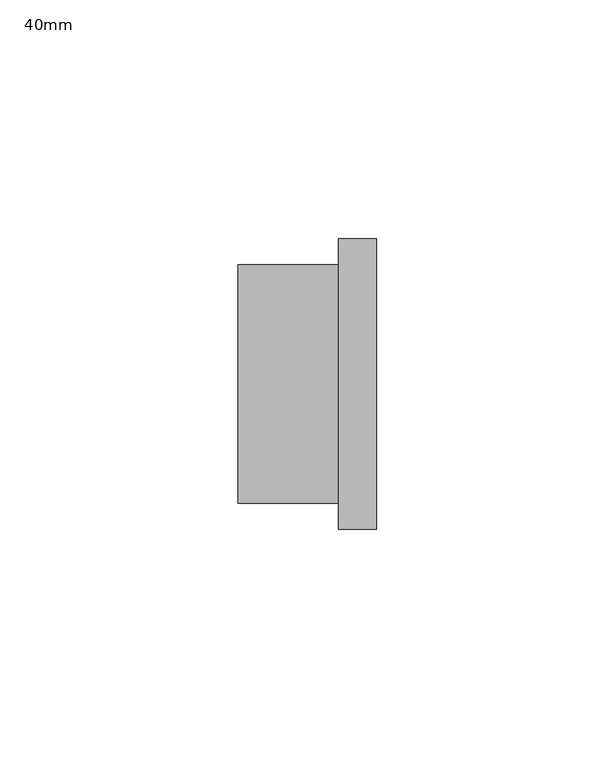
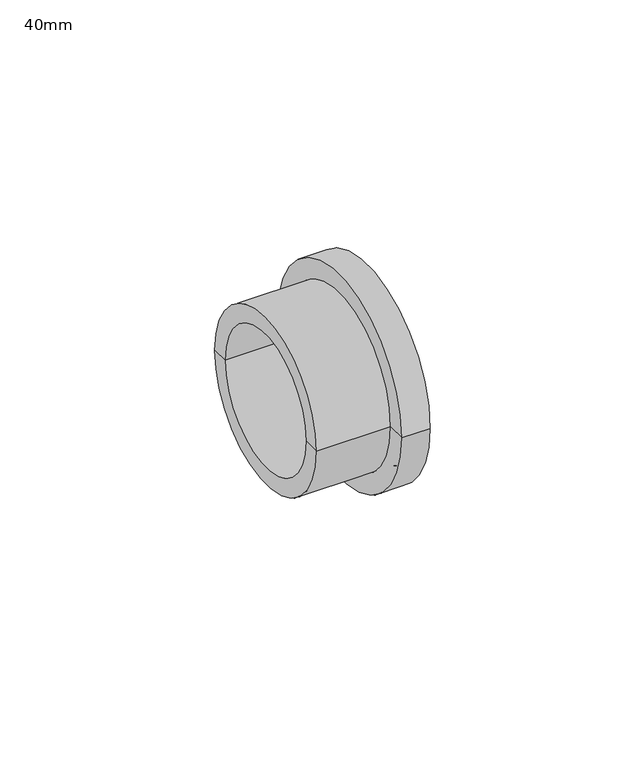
"""IFC4 building model written with IfcOpenShell, lengths in millimetres: pipe fitting geometry, Durapipe_PipeFitting_PVC_StubFlange : 40mm."""

from ifc_helpers import new_model, si_unit, frame, origin, place, context, project, spatial, polyline, circle_curve, source, transform, mapped, element, save
from ifc_brep_helpers import plane_surface, cylinder_surface, revolved_surface, advanced_brep


def pipe_fitting_40mm_33106ba2(model_context):
    return source(origin(), model_context, "Body", "AdvancedBrep", [
        advanced_brep(
        [(14.5, -30.5, 0.0), (14.5, 30.5, 0.0), (14.5, 27.8, 0.0), (14.5, -27.8, 0.0), (14.5, 16.0, 0.0), (14.5, -16.0, 0.0), (14.5, -24.0720779, 0.0), (14.5, 24.0720779, 0.0), (6.5, -30.5, 0.0), (6.5, 30.5, 0.0), (6.5, -25.0, 0.0), (6.5, 25.0, 0.0), (-14.5, -25.0, 0.0), (-14.5, 25.0, 0.0), (-14.5, -20.0, 0.0), (-14.5, 20.0, 0.0), (11.5, 16.0, 0.0), (11.5, -16.0, 0.0), (11.5, -20.0, 0.0), (11.5, 20.0, 0.0), (14.5, 25.3147186, 0.0), (13.0, 24.6933983, 0.0), (13.0, -24.6933983, 0.0), (14.5, -25.3147186, 0.0), (13.0, -25.936039, 0.0), (13.0, 25.936039, 0.0), (14.5, -26.5573593, 0.0), (14.5, 26.5573593, 0.0), (13.0, -27.1786797, 0.0), (13.0, 27.1786797, 0.0)],
        [
            (0, 1, circle_curve(frame((14.5, 0.0, 0.0), z_axis=(1.0, 0.0, 0.0), x_axis=(0.0, 1.0, 0.0)), 30.5)),
            (1, 2),
            (2, 3, circle_curve(frame((14.5, 0.0, 0.0), z_axis=(-1.0, 0.0, 0.0), x_axis=(0.0, -1.0, 0.0)), 27.8)),
            (3, 0),
            (4, 5, circle_curve(frame((14.5, 0.0, 0.0), z_axis=(-1.0, 0.0, 0.0), x_axis=(0.0, 1.0, 0.0)), 16.0)),
            (5, 6),
            (6, 7, circle_curve(frame((14.5, 0.0, 0.0), z_axis=(1.0, 0.0, 0.0), x_axis=(0.0, -1.0, 0.0)), 24.0720779)),
            (7, 4),
            (1, 0, circle_curve(frame((14.5, 0.0, 0.0), z_axis=(1.0, 0.0, 0.0), x_axis=(0.0, 1.0, 0.0)), 30.5)),
            (3, 2, circle_curve(frame((14.5, 0.0, 0.0), z_axis=(-1.0, 0.0, 0.0), x_axis=(0.0, 1.0, 0.0)), 27.8)),
            (5, 4, circle_curve(frame((14.5, 0.0, 0.0), z_axis=(-1.0, 0.0, 0.0), x_axis=(0.0, 1.0, 0.0)), 16.0)),
            (7, 6, circle_curve(frame((14.5, 0.0, 0.0), z_axis=(1.0, 0.0, 0.0), x_axis=(0.0, 1.0, 0.0)), 24.0720779)),
            (0, 8),
            (8, 9, circle_curve(frame((6.5, 0.0, 0.0), z_axis=(1.0, 0.0, 0.0), x_axis=(0.0, 1.0, 0.0)), 30.5)),
            (9, 1),
            (9, 8, circle_curve(frame((6.5, 0.0, 0.0), z_axis=(1.0, 0.0, 0.0), x_axis=(0.0, 1.0, 0.0)), 30.5)),
            (8, 10),
            (10, 11, circle_curve(frame((6.5, 0.0, 0.0), z_axis=(1.0, 0.0, 0.0), x_axis=(0.0, 1.0, 0.0)), 25.0)),
            (11, 9),
            (11, 10, circle_curve(frame((6.5, 0.0, 0.0), z_axis=(1.0, 0.0, 0.0), x_axis=(0.0, 1.0, 0.0)), 25.0)),
            (10, 12),
            (12, 13, circle_curve(frame((-14.5, 0.0, 0.0), z_axis=(1.0, 0.0, 0.0), x_axis=(0.0, 1.0, 0.0)), 25.0)),
            (13, 11),
            (13, 12, circle_curve(frame((-14.5, 0.0, 0.0), z_axis=(1.0, 0.0, 0.0), x_axis=(0.0, 1.0, 0.0)), 25.0)),
            (12, 14),
            (14, 15, circle_curve(frame((-14.5, 0.0, 0.0), z_axis=(1.0, 0.0, 0.0), x_axis=(0.0, 1.0, 0.0)), 20.0)),
            (15, 13),
            (15, 14, circle_curve(frame((-14.5, 0.0, 0.0), z_axis=(1.0, 0.0, 0.0), x_axis=(0.0, 1.0, 0.0)), 20.0)),
            (4, 16),
            (16, 17, circle_curve(frame((11.5, 0.0, 0.0), z_axis=(-1.0, 0.0, 0.0), x_axis=(0.0, 1.0, 0.0)), 16.0)),
            (17, 5),
            (17, 16, circle_curve(frame((11.5, 0.0, 0.0), z_axis=(-1.0, 0.0, 0.0), x_axis=(0.0, 1.0, 0.0)), 16.0)),
            (14, 18),
            (18, 19, circle_curve(frame((11.5, 0.0, 0.0), z_axis=(1.0, 0.0, 0.0), x_axis=(0.0, 1.0, 0.0)), 20.0)),
            (19, 15),
            (19, 18, circle_curve(frame((11.5, 0.0, 0.0), z_axis=(1.0, 0.0, 0.0), x_axis=(0.0, 1.0, 0.0)), 20.0)),
            (18, 17),
            (16, 19),
            (20, 21),
            (21, 22, circle_curve(frame((13.0, 0.0, 0.0), z_axis=(-1.0, 0.0, 0.0), x_axis=(0.0, -1.0, 0.0)), 24.6933983)),
            (22, 23),
            (23, 20, circle_curve(frame((14.5, 0.0, 0.0), z_axis=(1.0, 0.0, 0.0), x_axis=(0.0, -1.0, 0.0)), 25.3147186)),
            (23, 24),
            (24, 25, circle_curve(frame((13.0, 0.0, 0.0), z_axis=(1.0, 0.0, 0.0), x_axis=(0.0, -1.0, 0.0)), 25.936039)),
            (25, 20),
            (24, 26),
            (26, 27, circle_curve(frame((14.5, 0.0, 0.0), z_axis=(1.0, 0.0, 0.0), x_axis=(0.0, -1.0, 0.0)), 26.5573593)),
            (27, 25),
            (26, 28),
            (28, 29, circle_curve(frame((13.0, 0.0, 0.0), z_axis=(1.0, 0.0, 0.0), x_axis=(0.0, -1.0, 0.0)), 27.1786797)),
            (29, 27),
            (28, 3),
            (2, 29),
            (21, 7),
            (6, 22),
            (20, 23, circle_curve(frame((14.5, 0.0, 0.0), z_axis=(1.0, 0.0, 0.0), x_axis=(0.0, 1.0, 0.0)), 25.3147186)),
            (22, 21, circle_curve(frame((13.0, 0.0, 0.0), z_axis=(-1.0, 0.0, 0.0), x_axis=(0.0, 1.0, 0.0)), 24.6933983)),
            (25, 24, circle_curve(frame((13.0, 0.0, 0.0), z_axis=(1.0, 0.0, 0.0), x_axis=(0.0, 1.0, 0.0)), 25.936039)),
            (27, 26, circle_curve(frame((14.5, 0.0, 0.0), z_axis=(1.0, 0.0, 0.0), x_axis=(0.0, 1.0, 0.0)), 26.5573593)),
            (29, 28, circle_curve(frame((13.0, 0.0, 0.0), z_axis=(1.0, 0.0, 0.0), x_axis=(0.0, 1.0, 0.0)), 27.1786797)),
        ],
        [
            plane_surface(frame((14.5, 0.0, 0.0), z_axis=(1.0, 0.0, 0.0), x_axis=(0.0, 1.0, 0.0))),
            cylinder_surface(frame((17.6035546, 0.0, 0.0), z_axis=(-1.0, 0.0, 0.0), x_axis=(0.0, 1.0, 0.0)), 30.5),
            plane_surface(frame((6.5, 0.0, 0.0), z_axis=(-1.0, 0.0, 0.0), x_axis=(0.0, 1.0, 0.0))),
            cylinder_surface(frame((17.6035546, 0.0, 0.0), z_axis=(-1.0, 0.0, 0.0), x_axis=(0.0, 1.0, 0.0)), 25.0),
            plane_surface(frame((-14.5, 0.0, 0.0), z_axis=(-1.0, 0.0, 0.0), x_axis=(0.0, 1.0, 0.0))),
            revolved_surface(polyline([(11.5, 16.0, 0.0), (14.5, 16.0, 0.0)]), (17.6035546, 0.0, 0.0), (-1.0, 0.0, 0.0)),
            revolved_surface(polyline([(-14.5, 20.0, 0.0), (11.5, 20.0, 0.0)]), (-16.3250714, 0.0, 0.0), (-1.0, 0.0, 0.0)),
            plane_surface(frame((11.5, 0.0, 0.0), z_axis=(-1.0, 0.0, 0.0), x_axis=(0.0, 1.0, 0.0))),
            revolved_surface(polyline([(14.5, -25.3147186, 0.0), (13.0, -24.6933983, 0.0)]), (14.5, 0.0, 0.0), (1.0, 0.0, 0.0)),
            revolved_surface(polyline([(13.0, -25.936039, 0.0), (14.5, -25.3147186, 0.0)]), (14.5, 0.0, 0.0), (1.0, 0.0, 0.0)),
            revolved_surface(polyline([(14.5, -26.5573593, 0.0), (13.0, -25.936039, 0.0)]), (14.5, 0.0, 0.0), (1.0, 0.0, 0.0)),
            revolved_surface(polyline([(13.0, -27.1786797, 0.0), (14.5, -26.5573593, 0.0)]), (14.5, 0.0, 0.0), (1.0, 0.0, 0.0)),
            revolved_surface(polyline([(14.5, -27.8, 0.0), (13.0, -27.1786797, 0.0)]), (14.5, 0.0, 0.0), (1.0, 0.0, 0.0)),
            revolved_surface(polyline([(13.0, -24.6933983, 0.0), (14.5, -24.0720779, 0.0)]), (14.5, 0.0, 0.0), (1.0, 0.0, 0.0)),
            revolved_surface(polyline([(14.5, 25.3147186, 0.0), (13.0, 24.6933983, 0.0)]), (14.5, 0.0, 0.0), (1.0, 0.0, 0.0)),
            revolved_surface(polyline([(13.0, 25.936039, 0.0), (14.5, 25.3147186, 0.0)]), (14.5, 0.0, 0.0), (1.0, 0.0, 0.0)),
            revolved_surface(polyline([(14.5, 26.5573593, 0.0), (13.0, 25.936039, 0.0)]), (14.5, 0.0, 0.0), (1.0, 0.0, 0.0)),
            revolved_surface(polyline([(13.0, 27.1786797, 0.0), (14.5, 26.5573593, 0.0)]), (14.5, 0.0, 0.0), (1.0, 0.0, 0.0)),
            revolved_surface(polyline([(14.5, 27.8, 0.0), (13.0, 27.1786797, 0.0)]), (14.5, 0.0, 0.0), (1.0, 0.0, 0.0)),
            revolved_surface(polyline([(13.0, 24.6933983, 0.0), (14.5, 24.0720779, 0.0)]), (14.5, 0.0, 0.0), (1.0, 0.0, 0.0)),
        ],
        [
            (0, [[1, 2, 3, 4]]),
            (0, [[5, 6, 7, 8]]),
            (0, [[9, -4, 10, -2]]),
            (0, [[11, -8, 12, -6]]),
            (1, [[-1, 13, 14, 15]]),
            (1, [[-9, -15, 16, -13]]),
            (2, [[-14, 17, 18, 19]]),
            (2, [[-16, -19, 20, -17]]),
            (3, [[-18, 21, 22, 23]]),
            (3, [[-20, -23, 24, -21]]),
            (4, [[-22, 25, 26, 27]]),
            (4, [[-24, -27, 28, -25]]),
            (5, [[-5, 29, 30, 31]]),
            (5, [[-11, -31, 32, -29]]),
            (6, [[33, 34, 35, -26]]),
            (6, [[-33, -28, -35, 36]]),
            (7, [[-34, 37, -30, 38]]),
            (7, [[-36, -38, -32, -37]]),
            (8, [[39, 40, 41, 42]]),
            (9, [[-42, 43, 44, 45]]),
            (10, [[-44, 46, 47, 48]]),
            (11, [[-47, 49, 50, 51]]),
            (12, [[-50, 52, -3, 53]]),
            (13, [[-40, 54, -7, 55]]),
            (14, [[-39, 56, -41, 57]]),
            (15, [[-45, 58, -43, -56]]),
            (16, [[-48, 59, -46, -58]]),
            (17, [[-51, 60, -49, -59]]),
            (18, [[-53, -10, -52, -60]]),
            (19, [[-54, -57, -55, -12]]),
        ],
    ),
    ])


if __name__ == "__main__":
    model = new_model("IFC4")
    model_context = context("Model", 3, world=origin())
    ifc_project = project(units=[si_unit("LENGTHUNIT", "METRE", prefix="MILLI")], contexts=[model_context])
    site = spatial("IfcSite", under=ifc_project)
    building = spatial("IfcBuilding", under=site)
    placement = place(None, origin())
    pipe_fitting_40mm_shape = pipe_fitting_40mm_33106ba2(model_context)
    element("IfcPipeFitting", 1, ObjectType="Durapipe_PipeFitting_PVC_StubFlange : 40mm", at=placement, inside=building, context=model_context, shape_type="MappedRepresentation", body=[
        mapped(pipe_fitting_40mm_shape, transform((0.0, 0.0, 0.0), x_axis=(1.0, 0.0, 0.0), y_axis=(0.0, 1.0, 0.0), z_axis=(0.0, 0.0, 1.0))),
    ])
    save(model, "model.ifc")
